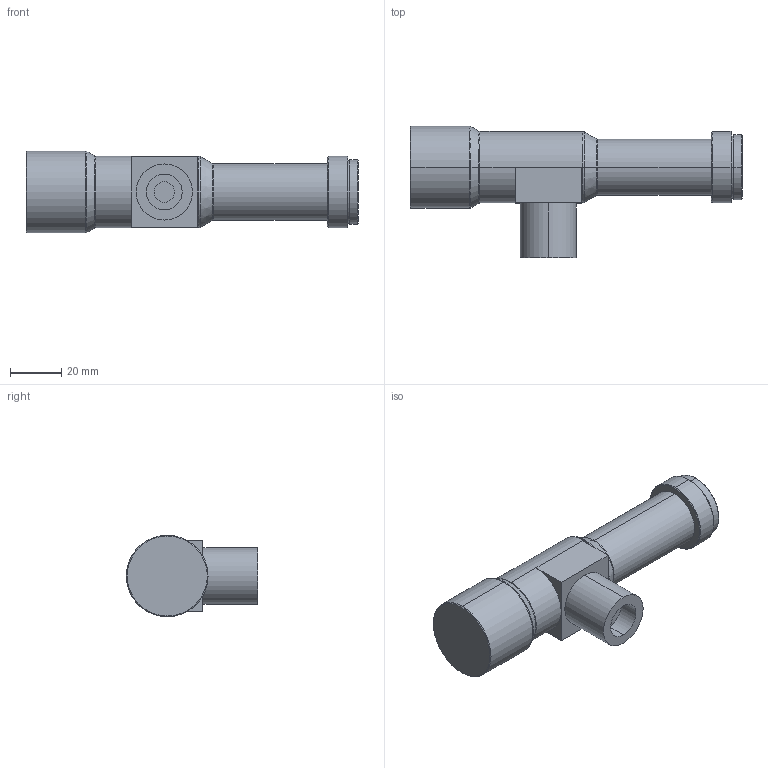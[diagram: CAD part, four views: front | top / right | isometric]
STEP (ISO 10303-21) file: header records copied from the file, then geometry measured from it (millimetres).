
FILE_DESCRIPTION (( 'STEP AP203' ), '1' );
FILE_NAME ('WWH15-108CTV3.STEP', '2021-09-09T07:52:30', ( '' ), ( '' ), 'SwSTEP 2.0', 'SolidWorks 2017', '' );
FILE_SCHEMA (( 'CONFIG_CONTROL_DESIGN' ));
Length unit declared in the file: millimetre
Products named in the file (1): WWH15-108CTV3
Bounding box: 130.1 x 51.4 x 32 mm (x, y, z)
Volume: 81682 mm3; surface area: 15223 mm2
Topology: 1 solids, 1 shells, 54 faces, 108 edges, 62 vertices
Faces by surface type: cylinder 19, plane 15, cone 12, torus 8
Entity records: 1473 total; most frequent: DIRECTION 282, CARTESIAN_POINT 225, ORIENTED_EDGE 216, AXIS2_PLACEMENT_3D 119, EDGE_CURVE 108, CIRCLE 64, VERTEX_POINT 62, EDGE_LOOP 60
